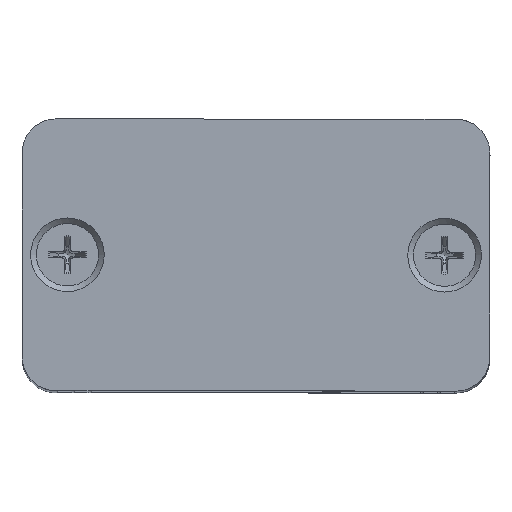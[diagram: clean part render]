
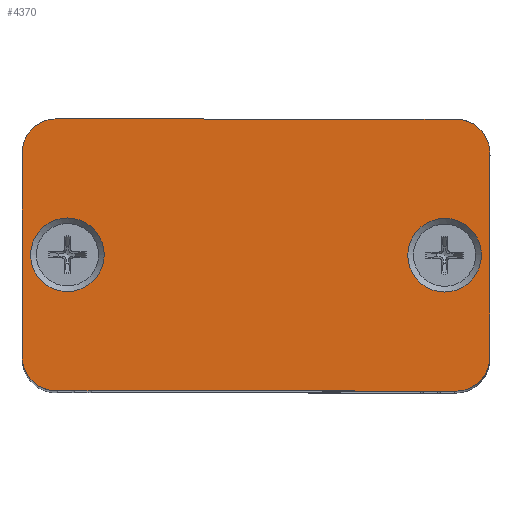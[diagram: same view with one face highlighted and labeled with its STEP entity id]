
A CAD part, top view. The second image highlights one B-rep face of the part: STEP entity #4370.
In plain terms, the highlighted planar face has unit normal (0, 0, 1).
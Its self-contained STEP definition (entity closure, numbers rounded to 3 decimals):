
#3980=CARTESIAN_POINT('',(-29.557,13.942,2.0));
#3981=VERTEX_POINT('',#3980);
#3982=CARTESIAN_POINT('',(-32.807,13.942,2.0));
#3983=DIRECTION('',(0.0,0.0,-1.0));
#3984=DIRECTION('',(1.0,0.0,0.0));
#3985=AXIS2_PLACEMENT_3D('',#3982,#3983,#3984);
#3986=CIRCLE('',#3985,3.25);
#3987=EDGE_CURVE('',#3981,#3981,#3986,.T.);
#4028=CARTESIAN_POINT('',(3.743,13.942,2.0));
#4029=VERTEX_POINT('',#4028);
#4030=CARTESIAN_POINT('',(0.493,13.942,2.0));
#4031=DIRECTION('',(0.0,0.0,-1.0));
#4032=DIRECTION('',(1.0,0.0,0.0));
#4033=AXIS2_PLACEMENT_3D('',#4030,#4031,#4032);
#4034=CIRCLE('',#4033,3.25);
#4035=EDGE_CURVE('',#4029,#4029,#4034,.T.);
#4076=CARTESIAN_POINT('',(-33.807,25.942,2.0));
#4077=VERTEX_POINT('',#4076);
#4078=CARTESIAN_POINT('',(1.493,25.942,2.0));
#4079=VERTEX_POINT('',#4078);
#4080=CARTESIAN_POINT('',(-33.807,25.942,2.0));
#4081=DIRECTION('',(1.0,0.0,0.0));
#4082=VECTOR('',#4081,35.3);
#4083=LINE('',#4080,#4082);
#4084=EDGE_CURVE('',#4077,#4079,#4083,.T.);
#4116=CARTESIAN_POINT('',(4.493,22.942,2.0));
#4117=VERTEX_POINT('',#4116);
#4118=CARTESIAN_POINT('',(1.493,22.942,2.0));
#4119=DIRECTION('',(0.0,0.0,-1.0));
#4120=DIRECTION('',(1.0,0.0,0.0));
#4121=AXIS2_PLACEMENT_3D('',#4118,#4119,#4120);
#4122=CIRCLE('',#4121,3.0);
#4123=EDGE_CURVE('',#4079,#4117,#4122,.T.);
#4149=CARTESIAN_POINT('',(4.493,4.942,2.0));
#4150=VERTEX_POINT('',#4149);
#4151=CARTESIAN_POINT('',(4.493,22.942,2.0));
#4152=DIRECTION('',(0.0,-1.0,0.0));
#4153=VECTOR('',#4152,18.0);
#4154=LINE('',#4151,#4153);
#4155=EDGE_CURVE('',#4117,#4150,#4154,.T.);
#4180=CARTESIAN_POINT('',(1.493,1.942,2.0));
#4181=VERTEX_POINT('',#4180);
#4182=CARTESIAN_POINT('',(1.493,4.942,2.0));
#4183=DIRECTION('',(0.0,0.0,-1.0));
#4184=DIRECTION('',(0.0,-1.0,0.0));
#4185=AXIS2_PLACEMENT_3D('',#4182,#4183,#4184);
#4186=CIRCLE('',#4185,3.0);
#4187=EDGE_CURVE('',#4150,#4181,#4186,.T.);
#4213=CARTESIAN_POINT('',(-33.807,1.942,2.0));
#4214=VERTEX_POINT('',#4213);
#4215=CARTESIAN_POINT('',(1.493,1.942,2.0));
#4216=DIRECTION('',(-1.0,0.0,0.0));
#4217=VECTOR('',#4216,35.3);
#4218=LINE('',#4215,#4217);
#4219=EDGE_CURVE('',#4181,#4214,#4218,.T.);
#4244=CARTESIAN_POINT('',(-36.807,4.942,2.0));
#4245=VERTEX_POINT('',#4244);
#4246=CARTESIAN_POINT('',(-33.807,4.942,2.0));
#4247=DIRECTION('',(0.0,0.0,-1.0));
#4248=DIRECTION('',(-1.0,0.0,0.0));
#4249=AXIS2_PLACEMENT_3D('',#4246,#4247,#4248);
#4250=CIRCLE('',#4249,3.0);
#4251=EDGE_CURVE('',#4214,#4245,#4250,.T.);
#4277=CARTESIAN_POINT('',(-36.807,22.942,2.0));
#4278=VERTEX_POINT('',#4277);
#4279=CARTESIAN_POINT('',(-36.807,4.942,2.0));
#4280=DIRECTION('',(0.0,1.0,0.0));
#4281=VECTOR('',#4280,18.);
#4282=LINE('',#4279,#4281);
#4283=EDGE_CURVE('',#4245,#4278,#4282,.T.);
#4308=CARTESIAN_POINT('',(-33.807,22.942,2.0));
#4309=DIRECTION('',(0.0,0.0,-1.0));
#4310=DIRECTION('',(0.0,1.0,0.0));
#4311=AXIS2_PLACEMENT_3D('',#4308,#4309,#4310);
#4312=CIRCLE('',#4311,3.0);
#4313=EDGE_CURVE('',#4278,#4077,#4312,.T.);
#4349=CARTESIAN_POINT('',(-16.157,13.942,2.0));
#4350=DIRECTION('',(0.0,0.0,1.0));
#4351=DIRECTION('',(1.0,0.0,0.0));
#4352=AXIS2_PLACEMENT_3D('',#4349,#4350,#4351);
#4353=PLANE('',#4352);
#4354=ORIENTED_EDGE('',*,*,#4084,.F.);
#4355=ORIENTED_EDGE('',*,*,#4313,.F.);
#4356=ORIENTED_EDGE('',*,*,#4283,.F.);
#4357=ORIENTED_EDGE('',*,*,#4251,.F.);
#4358=ORIENTED_EDGE('',*,*,#4219,.F.);
#4359=ORIENTED_EDGE('',*,*,#4187,.F.);
#4360=ORIENTED_EDGE('',*,*,#4155,.F.);
#4361=ORIENTED_EDGE('',*,*,#4123,.F.);
#4362=EDGE_LOOP('',(#4354,#4355,#4356,#4357,#4358,#4359,#4360,#4361));
#4363=FACE_OUTER_BOUND('',#4362,.T.);
#4364=ORIENTED_EDGE('',*,*,#3987,.T.);
#4365=EDGE_LOOP('',(#4364));
#4366=FACE_BOUND('',#4365,.T.);
#4367=ORIENTED_EDGE('',*,*,#4035,.T.);
#4368=EDGE_LOOP('',(#4367));
#4369=FACE_BOUND('',#4368,.T.);
#4370=ADVANCED_FACE('',(#4363,#4366,#4369),#4353,.T.);
